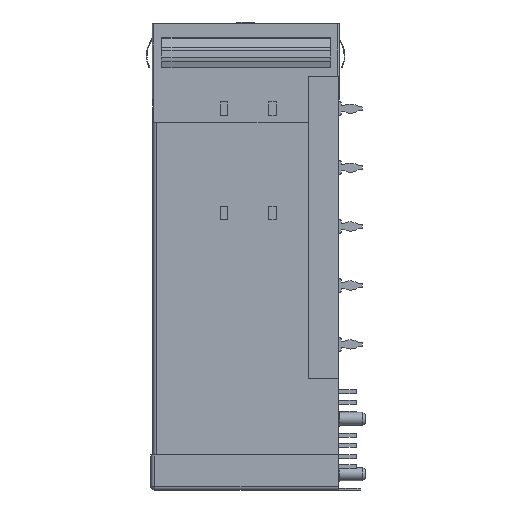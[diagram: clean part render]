
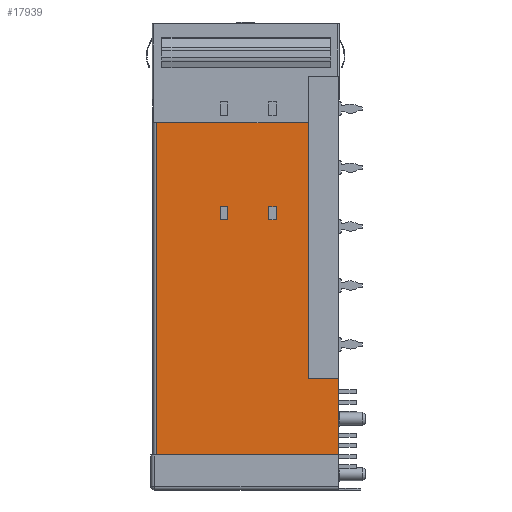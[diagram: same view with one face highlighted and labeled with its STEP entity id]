
A CAD part, left-side view. The second image highlights one B-rep face of the part: STEP entity #17939.
In plain terms, the highlighted planar face has unit normal (-1, 0, 0).
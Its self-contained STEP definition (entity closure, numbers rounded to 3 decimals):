
#164 = EDGE_CURVE ( 'NONE', #16957, #13726, #6505, .T. ) ;
#360 = EDGE_CURVE ( 'NONE', #11204, #12760, #19701, .T. ) ;
#473 = ORIENTED_EDGE ( 'NONE', *, *, #3250, .T. ) ;
#566 = CARTESIAN_POINT ( 'NONE',  ( -7.25, 16., -26.6 ) ) ;
#591 = AXIS2_PLACEMENT_3D ( 'NONE', #13798, #22270, #17316 ) ;
#788 = VERTEX_POINT ( 'NONE', #22528 ) ;
#820 = VECTOR ( 'NONE', #12139, 1000. ) ;
#942 = VERTEX_POINT ( 'NONE', #16003 ) ;
#989 = VERTEX_POINT ( 'NONE', #566 ) ;
#1580 = CARTESIAN_POINT ( 'NONE',  ( -7.25, 25.2, -13.4 ) ) ;
#1583 = EDGE_CURVE ( 'NONE', #19517, #17744, #3646, .T. ) ;
#1954 = CARTESIAN_POINT ( 'NONE',  ( -7.25, 15., -24.8 ) ) ;
#2262 = CARTESIAN_POINT ( 'NONE',  ( -7.25, 15., -24.8 ) ) ;
#2333 = VERTEX_POINT ( 'NONE', #6567 ) ;
#2343 = DIRECTION ( 'NONE',  ( 0., 0., -1. ) ) ;
#2385 = EDGE_CURVE ( 'NONE', #2333, #788, #15786, .T. ) ;
#2657 = ORIENTED_EDGE ( 'NONE', *, *, #164, .T. ) ;
#2731 = EDGE_CURVE ( 'NONE', #942, #22418, #22618, .T. ) ;
#2934 = DIRECTION ( 'NONE',  ( 0., -1., 0. ) ) ;
#3001 = CARTESIAN_POINT ( 'NONE',  ( -7.25, 9.45, -24.8 ) ) ;
#3250 = EDGE_CURVE ( 'NONE', #16925, #11204, #13006, .T. ) ;
#3646 = LINE ( 'NONE', #3001, #3922 ) ;
#3922 = VECTOR ( 'NONE', #9708, 1000. ) ;
#4103 = FACE_OUTER_BOUND ( 'NONE', #16735, .T. ) ;
#4310 = ORIENTED_EDGE ( 'NONE', *, *, #10541, .T. ) ;
#4730 = CARTESIAN_POINT ( 'NONE',  ( -7.25, 24.7, -63.25 ) ) ;
#4788 = CARTESIAN_POINT ( 'NONE',  ( -7.25, 0., -63.25 ) ) ;
#5238 = CARTESIAN_POINT ( 'NONE',  ( -7.25, 9.45, -26.6 ) ) ;
#5352 = ORIENTED_EDGE ( 'NONE', *, *, #8944, .T. ) ;
#5490 = LINE ( 'NONE', #22194, #15404 ) ;
#5499 = LINE ( 'NONE', #4730, #8224 ) ;
#5546 = DIRECTION ( 'NONE',  ( 0., 0., 1. ) ) ;
#6505 = LINE ( 'NONE', #11787, #12037 ) ;
#6518 = ORIENTED_EDGE ( 'NONE', *, *, #11451, .T. ) ;
#6567 = CARTESIAN_POINT ( 'NONE',  ( -7.25, 24.7, -58.5 ) ) ;
#6732 = LINE ( 'NONE', #4788, #16369 ) ;
#7271 = EDGE_CURVE ( 'NONE', #989, #16925, #14530, .T. ) ;
#7598 = CARTESIAN_POINT ( 'NONE',  ( -7.25, 9.45, -24.8 ) ) ;
#7751 = CARTESIAN_POINT ( 'NONE',  ( -7.25, 4.1, -13.4 ) ) ;
#7812 = EDGE_CURVE ( 'NONE', #12760, #989, #16418, .T. ) ;
#7853 = CARTESIAN_POINT ( 'NONE',  ( -7.25, 16., -24.8 ) ) ;
#8224 = VECTOR ( 'NONE', #15279, 1000. ) ;
#8380 = VECTOR ( 'NONE', #5546, 1000. ) ;
#8663 = ORIENTED_EDGE ( 'NONE', *, *, #360, .T. ) ;
#8685 = VECTOR ( 'NONE', #2343, 1000. ) ;
#8944 = EDGE_CURVE ( 'NONE', #788, #942, #6732, .T. ) ;
#9336 = CARTESIAN_POINT ( 'NONE',  ( -7.25, 0., -48.1 ) ) ;
#9670 = VECTOR ( 'NONE', #20497, 1000. ) ;
#9708 = DIRECTION ( 'NONE',  ( 0., -1., 0. ) ) ;
#9913 = VECTOR ( 'NONE', #21049, 1000. ) ;
#10000 = PLANE ( 'NONE',  #591 ) ;
#10255 = LINE ( 'NONE', #17280, #820 ) ;
#10541 = EDGE_CURVE ( 'NONE', #13726, #19517, #10255, .T. ) ;
#10749 = FACE_BOUND ( 'NONE', #16154, .T. ) ;
#10845 = CARTESIAN_POINT ( 'NONE',  ( -7.25, 15., -26.6 ) ) ;
#10862 = DIRECTION ( 'NONE',  ( 0., 1., 0. ) ) ;
#11117 = CARTESIAN_POINT ( 'NONE',  ( -7.25, 4.1, -7.1 ) ) ;
#11137 = CARTESIAN_POINT ( 'NONE',  ( -7.25, 4.1, -48.1 ) ) ;
#11204 = VERTEX_POINT ( 'NONE', #1954 ) ;
#11307 = FACE_BOUND ( 'NONE', #12650, .T. ) ;
#11308 = ORIENTED_EDGE ( 'NONE', *, *, #7812, .T. ) ;
#11451 = EDGE_CURVE ( 'NONE', #11552, #2333, #5499, .T. ) ;
#11552 = VERTEX_POINT ( 'NONE', #13390 ) ;
#11787 = CARTESIAN_POINT ( 'NONE',  ( -7.25, 9.45, -26.6 ) ) ;
#12037 = VECTOR ( 'NONE', #13239, 1000. ) ;
#12139 = DIRECTION ( 'NONE',  ( 0., 0., 1. ) ) ;
#12225 = VERTEX_POINT ( 'NONE', #7751 ) ;
#12650 = EDGE_LOOP ( 'NONE', ( #473, #8663, #11308, #20779 ) ) ;
#12760 = VERTEX_POINT ( 'NONE', #10845 ) ;
#12844 = ORIENTED_EDGE ( 'NONE', *, *, #2385, .T. ) ;
#12928 = ORIENTED_EDGE ( 'NONE', *, *, #21038, .T. ) ;
#12960 = LINE ( 'NONE', #1580, #9913 ) ;
#13006 = LINE ( 'NONE', #17039, #9670 ) ;
#13239 = DIRECTION ( 'NONE',  ( 0., 1., 0. ) ) ;
#13390 = CARTESIAN_POINT ( 'NONE',  ( -7.25, 24.7, -13.4 ) ) ;
#13643 = ORIENTED_EDGE ( 'NONE', *, *, #18078, .F. ) ;
#13726 = VERTEX_POINT ( 'NONE', #5238 ) ;
#13798 = CARTESIAN_POINT ( 'NONE',  ( -7.25, 0., -63.25 ) ) ;
#13873 = VECTOR ( 'NONE', #17952, 1000. ) ;
#14530 = LINE ( 'NONE', #22592, #18644 ) ;
#14587 = ORIENTED_EDGE ( 'NONE', *, *, #2731, .T. ) ;
#14947 = ORIENTED_EDGE ( 'NONE', *, *, #1583, .T. ) ;
#15279 = DIRECTION ( 'NONE',  ( 0., 0., -1. ) ) ;
#15404 = VECTOR ( 'NONE', #16992, 1000. ) ;
#15786 = LINE ( 'NONE', #18946, #16875 ) ;
#15790 = ORIENTED_EDGE ( 'NONE', *, *, #17851, .T. ) ;
#16003 = CARTESIAN_POINT ( 'NONE',  ( -7.25, 0., -48.1 ) ) ;
#16154 = EDGE_LOOP ( 'NONE', ( #14947, #15790, #2657, #4310 ) ) ;
#16369 = VECTOR ( 'NONE', #17116, 1000. ) ;
#16418 = LINE ( 'NONE', #21362, #21900 ) ;
#16735 = EDGE_LOOP ( 'NONE', ( #13643, #6518, #12844, #5352, #14587, #12928 ) ) ;
#16875 = VECTOR ( 'NONE', #2934, 1000. ) ;
#16925 = VERTEX_POINT ( 'NONE', #7853 ) ;
#16957 = VERTEX_POINT ( 'NONE', #20484 ) ;
#16992 = DIRECTION ( 'NONE',  ( 0., 0., -1. ) ) ;
#17039 = CARTESIAN_POINT ( 'NONE',  ( -7.25, 16., -24.8 ) ) ;
#17116 = DIRECTION ( 'NONE',  ( 0., 0., 1. ) ) ;
#17280 = CARTESIAN_POINT ( 'NONE',  ( -7.25, 9.45, -24.8 ) ) ;
#17316 = DIRECTION ( 'NONE',  ( 0., 0., 1. ) ) ;
#17411 = DIRECTION ( 'NONE',  ( 0., 0., 1. ) ) ;
#17744 = VERTEX_POINT ( 'NONE', #20149 ) ;
#17851 = EDGE_CURVE ( 'NONE', #17744, #16957, #5490, .T. ) ;
#17939 = ADVANCED_FACE ( 'NONE', ( #10749, #11307, #4103 ), #10000, .T. ) ;
#17952 = DIRECTION ( 'NONE',  ( 0., 1., 0. ) ) ;
#18078 = EDGE_CURVE ( 'NONE', #11552, #12225, #12960, .T. ) ;
#18644 = VECTOR ( 'NONE', #17411, 1000. ) ;
#18841 = LINE ( 'NONE', #11117, #8380 ) ;
#18946 = CARTESIAN_POINT ( 'NONE',  ( -7.25, 25.2, -58.5 ) ) ;
#19517 = VERTEX_POINT ( 'NONE', #7598 ) ;
#19701 = LINE ( 'NONE', #2262, #8685 ) ;
#20149 = CARTESIAN_POINT ( 'NONE',  ( -7.25, 8.45, -24.8 ) ) ;
#20484 = CARTESIAN_POINT ( 'NONE',  ( -7.25, 8.45, -26.6 ) ) ;
#20497 = DIRECTION ( 'NONE',  ( 0., -1., 0. ) ) ;
#20779 = ORIENTED_EDGE ( 'NONE', *, *, #7271, .T. ) ;
#21038 = EDGE_CURVE ( 'NONE', #22418, #12225, #18841, .T. ) ;
#21049 = DIRECTION ( 'NONE',  ( 0., -1., 0. ) ) ;
#21362 = CARTESIAN_POINT ( 'NONE',  ( -7.25, 16., -26.6 ) ) ;
#21900 = VECTOR ( 'NONE', #10862, 1000. ) ;
#22194 = CARTESIAN_POINT ( 'NONE',  ( -7.25, 8.45, -24.8 ) ) ;
#22270 = DIRECTION ( 'NONE',  ( -1., 0., 0. ) ) ;
#22418 = VERTEX_POINT ( 'NONE', #11137 ) ;
#22528 = CARTESIAN_POINT ( 'NONE',  ( -7.25, 0., -58.5 ) ) ;
#22592 = CARTESIAN_POINT ( 'NONE',  ( -7.25, 16., -24.8 ) ) ;
#22618 = LINE ( 'NONE', #9336, #13873 ) ;
